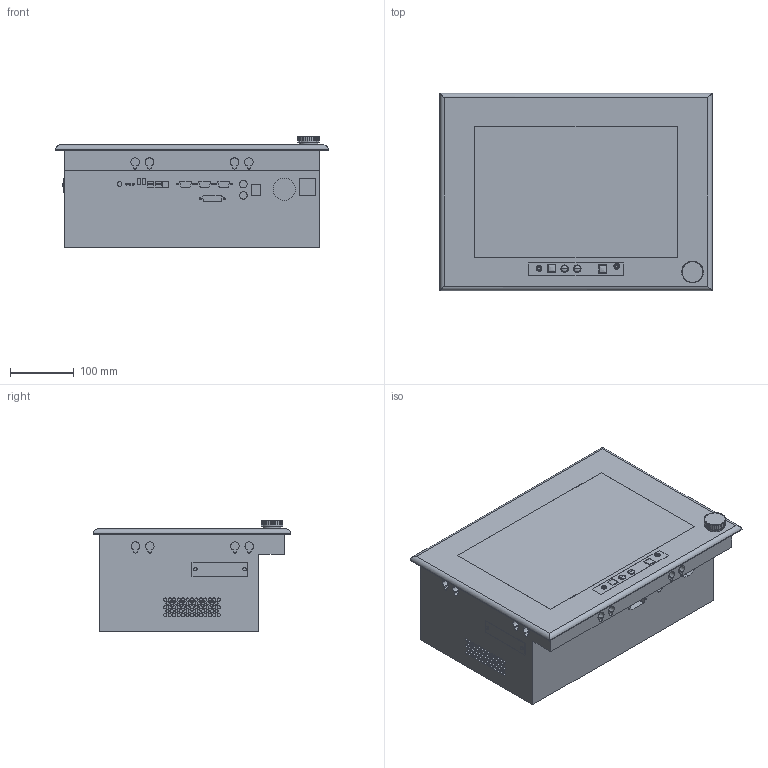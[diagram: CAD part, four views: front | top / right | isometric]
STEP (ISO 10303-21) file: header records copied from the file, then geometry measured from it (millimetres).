
FILE_DESCRIPTION((''),'2;1');
FILE_NAME('IPPC-9151_STEP','2009-05-19T',('jpfaff'),(''),'PRO/ENGINEER BY PARAMETRIC TECHNOLOGY CORPORATION, 2006080','PRO/ENGINEER BY PARAMETRIC TECHNOLOGY CORPORATION, 2006080','');
FILE_SCHEMA(('CONFIG_CONTROL_DESIGN'));
Products named in the file (1): IPPC-9151_STEP
Bounding box: 428 x 310 x 176 mm (x, y, z)
Surface area: 594772.9 mm2 (no closed solid volume)
Topology: 0 solids, 1 shells, 2833 faces, 6020 edges, 3870 vertices
Faces by surface type: cylinder 1685, plane 902, torus 172, bspline 70, sphere 4
Entity records: 85403 total; most frequent: CARTESIAN_POINT 21477, DIRECTION 14871, ORIENTED_EDGE 11897, AXIS2_PLACEMENT_3D 6369, EDGE_CURVE 5952, VERTEX_POINT 3870, CIRCLE 3606, EDGE_LOOP 3585
